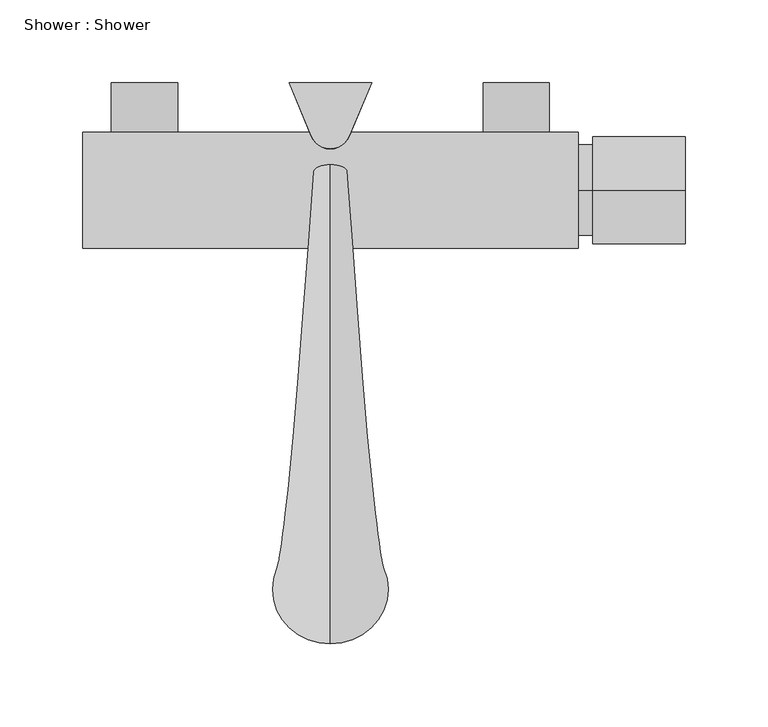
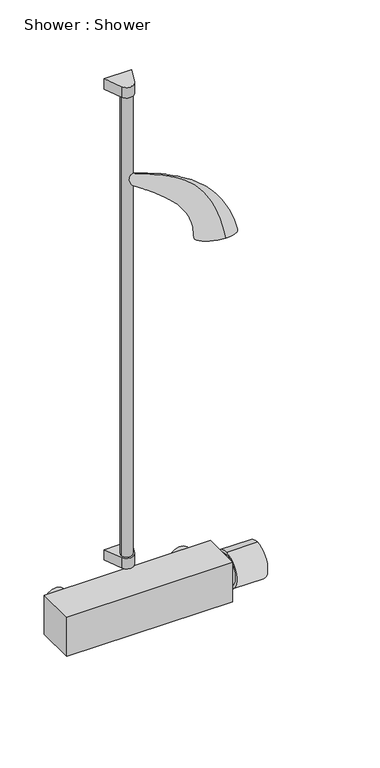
"""IFC4 building model written with IfcOpenShell, lengths in millimetres: flow terminal geometry, Shower : Shower."""

from ifc_helpers import new_model, si_unit, point, frame, frame_2d, origin, place, context, project, spatial, polyline, circle_curve, trimmed, segment, composite_curve, outline, extrude, source, transform, mapped, element, save
from ifc_brep_helpers import plane_surface, cylinder_surface, spline_curve, spline_surface, advanced_brep


def shower_shower_88c2a776(model_context):
    return source(origin(), model_context, "Body", "SolidModel", [
        extrude(outline(composite_curve([segment(trimmed(circle_curve(frame_2d((700.0, -112.5)), 20.0), [point((700.0, -132.5))], [point((700.0, -92.5))], False, "CARTESIAN"), True, "CONTINUOUS"), segment(trimmed(circle_curve(frame_2d((700.0, -112.5)), 20.0), [point((700.0, -92.5))], [point((700.0, -132.5))], False, "CARTESIAN"), True, "CONTINUOUS")], self_intersect=False)), frame((0.0, -30.0, 0.0), z_axis=(0.0, 1.0, 0.0), x_axis=(0.0, 0.0, 1.0)), (0.0, 0.0, 1.0), 30.0),
        extrude(outline(composite_curve([segment(trimmed(circle_curve(frame_2d((700.0, 112.5)), 20.0), [point((700.0, 92.5))], [point((700.0, 132.5))], False, "CARTESIAN"), True, "CONTINUOUS"), segment(trimmed(circle_curve(frame_2d((700.0, 112.5)), 20.0), [point((700.0, 132.5))], [point((700.0, 92.5))], False, "CARTESIAN"), True, "CONTINUOUS")], self_intersect=False)), frame((0.0, -30.0, 0.0), z_axis=(0.0, 1.0, 0.0), x_axis=(0.0, 0.0, 1.0)), (0.0, 0.0, 1.0), 30.0),
        advanced_brep(
        [(0.0, -273.9455818, 1531.8544159), (0.0, -339.7240653, 1555.795826), (0.0, -58.585236, 1485.4693827), (0.0, -49.5743612, 1503.3244698)],
        [
            (0, 1, spline_curve(3, [(0.0, -273.9455818, 1531.8544159), (4.581489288, -273.9455818, 1531.8544159), (9.161910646, -274.801822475, 1532.166062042), (17.625929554, -278.096430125, 1533.365201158), (21.509527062, -280.534797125, 1534.252694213), (27.987947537, -286.622438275, 1536.468414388), (30.582770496, -290.271712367, 1537.796641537), (34.088796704, -298.225598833, 1540.691619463), (35.0, -302.530211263, 1542.258370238), (35.0, -311.139435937, 1545.391871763), (34.088796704, -315.444048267, 1546.958622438), (30.582770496, -323.397934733, 1549.853600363), (27.987947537, -327.047208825, 1551.181827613), (21.509527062, -333.134849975, 1553.397547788), (17.625929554, -335.573216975, 1554.285040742), (9.161910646, -338.867824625, 1555.484179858), (4.581489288, -339.7240653, 1555.795826), (0.0, -339.7240653, 1555.795826)], [4, 2, 2, 2, 2, 2, 2, 2, 4], [0.0, 0.125, 0.25, 0.375, 0.5, 0.625, 0.75, 0.875, 1.0])),
            (1, 0, spline_curve(3, [(0.0, -339.7240653, 1555.795826), (-4.581489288, -339.7240653, 1555.795826), (-9.161910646, -338.867824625, 1555.484179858), (-17.625929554, -335.573216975, 1554.285040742), (-21.509527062, -333.134849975, 1553.397547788), (-27.987947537, -327.047208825, 1551.181827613), (-30.582770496, -323.397934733, 1549.853600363), (-34.088796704, -315.444048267, 1546.958622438), (-35.0, -311.139435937, 1545.391871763), (-35.0, -302.530211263, 1542.258370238), (-34.088796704, -298.225598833, 1540.691619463), (-30.582770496, -290.271712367, 1537.796641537), (-27.987947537, -286.622438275, 1536.468414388), (-21.509527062, -280.534797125, 1534.252694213), (-17.625929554, -278.096430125, 1533.365201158), (-9.161910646, -274.801822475, 1532.166062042), (-4.581489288, -273.9455818, 1531.8544159), (0.0, -273.9455818, 1531.8544159)], [4, 2, 2, 2, 2, 2, 2, 2, 4], [0.0, 0.125, 0.25, 0.375, 0.5, 0.625, 0.75, 0.875, 1.0])),
            (2, 3, spline_curve(3, [(0.0, -58.585236, 1485.4693827), (-1.308996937, -58.585236, 1485.4693827), (-2.617688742, -58.467941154, 1485.701802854), (-5.035979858, -58.016618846, 1486.596099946), (-6.145579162, -57.682591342, 1487.257976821), (-7.996556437, -56.848656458, 1488.910422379), (-8.737934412, -56.348749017, 1489.900991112), (-9.739656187, -55.259160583, 1492.060015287), (-10.0, -54.669479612, 1493.228470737), (-10.0, -53.490117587, 1495.565381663), (-9.739656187, -52.900436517, 1496.733837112), (-8.737934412, -51.810848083, 1498.892861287), (-7.996556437, -51.310940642, 1499.883430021), (-6.145579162, -50.477005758, 1501.535875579), (-5.035979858, -50.142978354, 1502.197752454), (-2.617688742, -49.691656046, 1503.092049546), (-1.308996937, -49.5743612, 1503.3244698), (0.0, -49.5743612, 1503.3244698)], [4, 2, 2, 2, 2, 2, 2, 2, 4], [0.0, 0.125, 0.25, 0.375, 0.5, 0.625, 0.75, 0.875, 1.0])),
            (3, 2, spline_curve(3, [(0.0, -49.5743612, 1503.3244698), (1.308996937, -49.5743612, 1503.3244698), (2.617688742, -49.691656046, 1503.092049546), (5.035979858, -50.142978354, 1502.197752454), (6.145579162, -50.477005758, 1501.535875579), (7.996556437, -51.310940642, 1499.883430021), (8.737934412, -51.810848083, 1498.892861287), (9.739656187, -52.900436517, 1496.733837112), (10.0, -53.490117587, 1495.565381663), (10.0, -54.669479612, 1493.228470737), (9.739656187, -55.259160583, 1492.060015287), (8.737934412, -56.348749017, 1489.900991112), (7.996556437, -56.848656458, 1488.910422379), (6.145579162, -57.682591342, 1487.257976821), (5.035979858, -58.016618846, 1486.596099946), (2.617688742, -58.467941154, 1485.701802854), (1.308996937, -58.585236, 1485.4693827), (0.0, -58.585236, 1485.4693827)], [4, 2, 2, 2, 2, 2, 2, 2, 4], [0.0, 0.125, 0.25, 0.375, 0.5, 0.625, 0.75, 0.875, 1.0])),
            (3, 1, spline_curve(3, [(0.0, -49.5743612, 1503.3244698), (0.0, -63.40074487, 1511.468991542), (0.0, -77.251793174, 1519.62621399), (0.0, -104.705512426, 1535.50800641), (0.0, -118.308183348, 1543.232576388), (0.0, -145.000729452, 1557.798523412), (0.0, -158.090604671, 1564.63990039), (0.0, -183.577807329, 1576.98807661), (0.0, -195.975134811, 1582.494875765), (0.0, -220.088456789, 1591.716124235), (0.0, -231.804451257, 1595.430573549), (0.0, -249.255113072, 1599.069210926), (0.0, -255.051445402, 1599.959917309), (0.0, -266.730418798, 1600.879782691), (0.0, -272.613059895, 1600.908941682), (0.0, -284.529336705, 1599.740766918), (0.0, -290.562972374, 1598.543433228), (0.0, -302.528009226, 1594.431873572), (0.0, -308.459410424, 1591.517647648), (0.0, -319.462788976, 1583.845597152), (0.0, -324.534766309, 1579.087772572), (0.0, -333.218295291, 1568.277379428), (0.0, -336.829846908, 1562.224810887), (0.0, -339.7240653, 1555.795826)], [4, 2, 2, 2, 2, 2, 2, 2, 2, 2, 2, 4], [0.0, 0.04462617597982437, 0.08925235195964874, 0.1338785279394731, 0.17850470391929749, 0.22313087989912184, 0.24544396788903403, 0.2677570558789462, 0.29007014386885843, 0.3123832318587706, 0.33469631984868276, 0.35700940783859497])),
            (0, 2, spline_curve(3, [(0.0, -273.9455818, 1531.8544159), (0.0, -273.836822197, 1533.676045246), (0.0, -273.739600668, 1534.907517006), (0.0, -273.682217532, 1536.852878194), (0.0, -273.722055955, 1537.566767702), (0.0, -273.426015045, 1539.146640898), (0.0, -273.090135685, 1540.012624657), (0.0, -271.373694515, 1541.890801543), (0.0, -269.993132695, 1542.902994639), (0.0, -266.022321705, 1544.704012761), (0.0, -263.432072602, 1545.492837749), (0.0, -257.194797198, 1546.602995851), (0.0, -253.547770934, 1546.92432895), (0.0, -241.344991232, 1547.0425204), (0.0, -231.527536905, 1545.993570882), (0.0, -209.750780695, 1541.821725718), (0.0, -197.791478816, 1538.698830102), (0.0, -172.448037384, 1530.887894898), (0.0, -159.063897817, 1526.199855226), (0.0, -131.396824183, 1515.773820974), (0.0, -117.113890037, 1510.035826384), (0.0, -88.090604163, 1498.025915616), (0.0, -73.350252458, 1491.753999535), (0.0, -58.585236, 1485.4693827)], [4, 2, 2, 2, 2, 2, 2, 2, 2, 2, 2, 4], [0.0, 0.022313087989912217, 0.04462617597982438, 0.06693926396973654, 0.08925235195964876, 0.11156543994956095, 0.13387852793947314, 0.17850470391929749, 0.22313087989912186, 0.2677570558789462, 0.3123832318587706, 0.35700940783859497])),
        ],
        [
            plane_surface(frame((0.0, -306.8348236, 1543.825121), z_axis=(0.0, -0.34202014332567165, -0.9396926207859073), x_axis=(1.0, 0.0, 0.0))),
            plane_surface(frame((0.0, -54.0797986, 1494.3969262), z_axis=(0.0, 0.8927543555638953, -0.45054373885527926), x_axis=(1.0, 0.0, 0.0))),
            spline_surface(3, 3, [[(0.0, -58.585236, 1485.4693827), (0.0, -73.350252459, 1491.753999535), (0.0, -88.090604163, 1498.025915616), (0.0, -117.113890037, 1510.035826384), (0.0, -131.396824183, 1515.773820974), (0.0, -159.063897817, 1526.199855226), (0.0, -172.448037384, 1530.887894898), (0.0, -197.791478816, 1538.698830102), (0.0, -209.750780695, 1541.821725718), (0.0, -231.527536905, 1545.993570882), (0.0, -241.344991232, 1547.042520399), (0.0, -253.547770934, 1546.92432895), (0.0, -257.194797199, 1546.602995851), (0.0, -263.432072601, 1545.492837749), (0.0, -266.022321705, 1544.704012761), (0.0, -269.993132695, 1542.902994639), (0.0, -271.373694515, 1541.890801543), (0.0, -273.090135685, 1540.012624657), (0.0, -273.426015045, 1539.146640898), (0.0, -273.722055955, 1537.566767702), (0.0, -273.682217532, 1536.852878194), (0.0, -273.739600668, 1534.907517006), (0.0, -273.836822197, 1533.676045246), (0.0, -273.9455818, 1531.8544159)], [(1.308996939, -58.585236, 1485.4693827), (1.445350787, -73.350252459, 1491.753999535), (1.581704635, -88.090604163, 1498.025915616), (1.85441233, -117.113890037, 1510.035826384), (1.990766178, -131.396824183, 1515.773820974), (2.263473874, -159.063897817, 1526.199855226), (2.399827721, -172.448037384, 1530.887894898), (2.672535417, -197.791478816, 1538.698830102), (2.808889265, -209.750780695, 1541.821725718), (3.081596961, -231.527536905, 1545.993570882), (3.217950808, -241.344991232, 1547.042520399), (3.42248158, -253.547770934, 1546.92432895), (3.490658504, -257.194797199, 1546.602995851), (3.627012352, -263.432072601, 1545.492837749), (3.695189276, -266.022321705, 1544.704012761), (3.831543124, -269.993132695, 1542.902994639), (3.899720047, -271.373694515, 1541.890801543), (4.036073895, -273.090135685, 1540.012624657), (4.104250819, -273.426015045, 1539.146640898), (4.240604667, -273.722055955, 1537.566767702), (4.308781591, -273.682217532, 1536.852878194), (4.445135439, -273.739600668, 1534.907517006), (4.513312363, -273.836822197, 1533.676045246), (4.581489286, -273.9455818, 1531.8544159)], [(2.617688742, -58.467941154, 1485.701802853), (2.890342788, -73.220742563, 1492.010623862), (3.163062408, -87.94952014, 1498.307098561), (3.708370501, -116.952364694, 1510.367387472), (3.981090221, -131.226470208, 1516.131244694), (4.526398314, -158.880815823, 1526.611183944), (4.799117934, -172.261171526, 1531.327290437), (5.344426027, -197.606433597, 1539.19719776), (5.617145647, -209.571652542, 1542.350894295), (6.16245374, -231.378444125, 1546.58901788), (6.43517346, -241.22058409, 1547.672589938), (6.844154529, -253.492002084, 1547.60300025), (6.98051429, -257.166897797, 1547.297493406), (7.253168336, -263.475006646, 1546.21386262), (7.389528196, -266.107996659, 1545.435679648), (7.662182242, -270.18246787, 1543.642808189), (7.798542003, -271.623513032, 1542.628501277), (8.071196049, -273.473298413, 1540.720751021), (8.207555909, -273.882441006, 1539.828258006), (8.480209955, -274.317069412, 1538.169278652), (8.616569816, -274.344055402, 1537.402348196), (8.889223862, -274.513948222, 1535.342196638), (9.025583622, -274.656813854, 1534.047649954), (9.161910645, -274.801822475, 1532.166062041)], [(5.035979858, -58.016618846, 1486.596099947), (5.560582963, -72.722401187, 1492.99808944), (6.085120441, -87.40663286, 1499.38895755), (7.13432665, -116.330883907, 1511.643219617), (7.658864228, -130.570864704, 1517.506570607), (8.708070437, -158.176484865, 1528.193831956), (9.232607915, -171.542008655, 1533.017717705), (10.281814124, -196.894572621, 1541.115057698), (10.806351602, -208.881300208, 1544.388616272), (11.855557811, -230.805881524, 1548.878545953), (12.380095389, -240.743168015, 1550.09577215), (13.167000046, -253.276780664, 1550.214950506), (13.429268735, -257.059543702, 1549.970052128), (13.953871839, -263.640210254, 1548.987893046), (14.216140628, -266.438336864, 1548.250691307), (14.740743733, -270.910300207, 1546.489698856), (15.003012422, -272.584572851, 1545.465526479), (15.527615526, -274.947797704, 1543.446916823), (15.789884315, -275.636347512, 1542.451529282), (16.31448742, -276.608848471, 1540.48702286), (16.576756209, -276.891299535, 1539.518348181), (17.101359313, -277.492799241, 1537.012966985), (17.363628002, -277.811889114, 1535.477585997), (17.625929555, -278.096430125, 1533.365201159)], [(6.145579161, -57.682591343, 1487.257976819), (6.785731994, -72.353588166, 1493.728893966), (7.425919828, -87.004859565, 1500.189698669), (8.706225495, -115.870898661, 1512.587425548), (9.346413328, -130.085737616, 1518.524427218), (10.626718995, -157.655111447, 1529.365197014), (11.266906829, -171.009859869, 1534.269010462), (12.547212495, -196.367608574, 1542.534288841), (13.187400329, -208.371186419, 1545.895560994), (14.467705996, -230.38130124, 1550.574235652), (15.107893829, -240.388886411, 1551.890058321), (16.068123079, -253.117964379, 1552.147642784), (16.388216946, -256.980092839, 1551.94781382), (17.02836978, -263.76247598, 1551.041198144), (17.348463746, -266.682318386, 1550.334302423), (17.98861658, -271.44948106, 1548.596509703), (18.308710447, -273.295995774, 1547.566317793), (18.94886328, -276.038952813, 1545.463490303), (19.268957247, -276.936138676, 1544.392610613), (19.90911008, -278.303303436, 1542.202828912), (20.229203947, -278.776054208, 1541.083106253), (20.86935678, -279.697954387, 1538.250829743), (21.189450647, -280.147027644, 1536.5358266), (21.509527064, -280.534797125, 1534.252694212)], [(7.996556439, -56.848656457, 1488.910422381), (8.829542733, -71.432773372, 1495.55349244), (9.662494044, -86.001734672, 1502.188713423), (11.328466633, -114.722551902, 1514.944855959), (12.161417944, -128.874336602, 1521.065698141), (13.827390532, -156.353677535, 1532.289549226), (14.660341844, -169.681020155, 1537.39251277), (16.326314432, -195.052261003, 1546.078031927), (17.159265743, -207.095581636, 1549.660780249), (18.825238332, -229.323343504, 1554.804731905), (19.658189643, -239.50673653, 1556.36751522), (20.907669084, -252.72028705, 1556.973897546), (21.32414469, -256.781728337, 1556.886058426), (22.157130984, -264.067732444, 1556.16693801), (22.57360669, -267.292707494, 1555.535765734), (23.406592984, -272.79433986, 1553.85687774), (23.82306859, -275.071802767, 1552.808456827), (24.656054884, -278.763472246, 1550.500787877), (25.072530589, -280.176935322, 1549.239783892), (25.905516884, -282.537958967, 1546.485461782), (26.321992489, -283.482747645, 1544.992964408), (27.154978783, -285.20215336, 1541.338010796), (27.571454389, -285.976846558, 1539.178003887), (27.987947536, -286.622438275, 1536.468414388)], [(8.737934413, -56.348749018, 1489.900991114), (9.648128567, -70.880805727, 1496.647218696), (10.558344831, -85.40043835, 1503.387107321), (12.37873314, -114.03413524, 1516.357960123), (13.288949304, -128.148292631, 1522.589028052), (15.109337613, -155.573387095, 1534.042620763), (16.019553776, -168.884603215, 1539.265204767), (17.839942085, -194.263603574, 1548.202061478), (18.750158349, -206.332142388, 1551.916082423), (20.570546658, -228.687914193, 1557.342510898), (21.480762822, -238.976516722, 1559.052854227), (22.846054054, -252.482601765, 1559.866375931), (23.301162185, -256.662821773, 1559.845987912), (24.21135634, -264.250716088, 1559.239926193), (24.666464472, -267.657851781, 1558.654110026), (25.576658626, -273.601281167, 1557.009942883), (26.031766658, -276.136522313, 1555.95251323), (26.941960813, -280.396501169, 1553.518803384), (27.397068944, -282.122210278, 1552.144817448), (28.307263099, -285.073890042, 1549.053347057), (28.762371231, -286.30348228, 1547.334790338), (29.672565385, -288.502401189, 1543.190603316), (30.127673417, -289.471628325, 1540.761772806), (30.582770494, -290.271712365, 1537.796641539)], [(9.739656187, -55.259160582, 1492.060015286), (10.754211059, -69.677703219, 1499.031171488), (11.768743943, -84.089792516, 1505.998945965), (13.797853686, -112.533747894, 1519.438091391), (14.81238647, -126.56552093, 1525.909358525), (16.841496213, -153.872981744, 1537.86347106), (17.856028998, -167.148390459, 1543.346257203), (19.885138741, -192.545019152, 1552.832184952), (20.899671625, -204.665484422, 1556.835578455), (22.928781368, -227.305625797, 1562.869920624), (23.943314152, -237.823932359, 1564.902933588), (25.465146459, -251.963011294, 1566.172181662), (25.972412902, -256.403646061, 1566.298115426), (26.986967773, -264.649552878, 1565.93702807), (27.494234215, -268.455363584, 1565.45014935), (28.508789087, -275.358423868, 1563.882944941), (29.016055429, -278.456725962, 1562.801697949), (30.0306103, -283.956257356, 1560.100349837), (30.537876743, -286.356515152, 1558.477954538), (31.552431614, -290.606734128, 1554.648876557), (32.059698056, -292.453073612, 1552.4432662), (33.074252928, -295.693983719, 1547.224199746), (33.58151927, -297.08865381, 1544.213943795), (34.088796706, -298.225598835, 1540.691619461)], [(10.0, -54.669479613, 1493.228470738), (11.041666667, -69.026613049, 1500.321309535), (12.083333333, -83.380515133, 1507.412547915), (14.166666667, -111.721705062, 1521.104961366), (15.208333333, -125.709093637, 1527.706248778), (17.291666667, -152.952566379, 1539.931360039), (18.333333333, -166.20895255, 1545.555247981), (20.416666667, -191.61473421, 1555.337648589), (21.458333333, -203.764946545, 1559.495888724), (23.541666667, -226.556085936, 1565.863435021), (24.583333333, -237.198495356, 1568.070506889), (26.145833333, -251.682642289, 1569.584092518), (26.666666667, -256.263386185, 1569.789590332), (27.708333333, -264.865396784, 1569.561864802), (28.229166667, -268.886080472, 1569.128487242), (29.270833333, -276.310275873, 1567.602238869), (29.791666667, -279.712648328, 1566.510365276), (30.833333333, -285.882546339, 1563.660341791), (31.354166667, -288.65112345, 1561.904675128), (32.395833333, -293.598068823, 1557.677903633), (32.916666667, -295.780357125, 1555.205638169), (33.958333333, -299.58689161, 1549.409481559), (34.479166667, -301.211030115, 1546.08212664), (35.0, -302.530211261, 1542.258370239)], [(10.0, -53.490117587, 1495.565381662), (11.041666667, -67.724384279, 1502.901681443), (12.083333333, -81.961882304, 1510.239581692), (14.166666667, -110.097697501, 1524.438871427), (15.208333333, -123.995913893, 1531.300148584), (17.291666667, -151.11206089, 1544.067018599), (18.333333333, -164.329689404, 1549.972547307), (20.416666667, -189.754551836, 1560.349258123), (21.458333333, -201.960968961, 1564.820712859), (23.541666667, -225.059907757, 1571.846260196), (24.583333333, -235.950947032, 1574.40258716), (26.145833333, -251.120241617, 1576.409447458), (26.666666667, -255.982856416, 1576.773322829), (27.708333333, -265.297094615, 1576.810755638), (28.229166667, -269.749301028, 1576.4844672), (29.270833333, -278.212193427, 1575.041522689), (29.791666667, -282.224018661, 1573.923869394), (30.833333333, -289.735598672, 1570.784156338), (31.354166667, -293.23430202, 1568.759613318), (32.395833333, -299.586776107, 1563.734461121), (32.916666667, -302.436626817, 1560.735012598), (33.958333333, -307.371004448, 1553.775414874), (34.479166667, -309.455639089, 1549.818729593), (35.0, -311.139435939, 1545.391871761)], [(9.739656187, -52.900436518, 1496.733837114), (10.754211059, -67.073294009, 1504.19181949), (11.768743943, -81.252604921, 1511.653183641), (13.797853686, -109.285654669, 1526.105741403), (14.81238647, -123.139486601, 1533.097038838), (16.841496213, -150.191645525, 1546.134907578), (17.856028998, -163.390251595, 1552.181538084), (19.885138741, -188.824266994, 1562.854721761), (20.899671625, -201.060430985, 1567.481023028), (22.928781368, -224.310367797, 1574.839774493), (23.943314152, -235.325510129, 1577.570160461), (25.465146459, -250.839872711, 1579.821358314), (25.972412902, -255.84259654, 1580.264797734), (26.986967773, -265.51293852, 1580.43559237), (27.494234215, -270.180018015, 1580.162805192), (28.508789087, -279.164045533, 1578.760816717), (29.016055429, -283.479941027, 1577.632536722), (30.0306103, -291.661887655, 1574.344148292), (30.537876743, -295.528910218, 1572.186334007), (31.552431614, -302.578110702, 1566.763488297), (32.059698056, -305.76391023, 1563.497384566), (33.074252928, -311.263912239, 1555.960696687), (33.58151927, -313.578015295, 1551.686912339), (34.088796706, -315.444048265, 1546.958622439)], [(8.737934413, -51.810848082, 1498.892861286), (9.648128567, -65.870191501, 1506.575772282), (10.558344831, -79.941959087, 1514.265022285), (12.37873314, -107.785267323, 1529.185872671), (13.288949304, -121.5567149, 1536.41736931), (15.109337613, -148.491240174, 1549.955757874), (16.019553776, -161.654038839, 1556.26259052), (17.839942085, -187.105682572, 1567.484845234), (18.750158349, -199.393773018, 1572.40051906), (20.570546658, -222.9280794, 1580.367184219), (21.480762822, -234.172925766, 1583.420239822), (22.846054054, -250.320282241, 1586.127164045), (23.301162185, -255.583420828, 1586.716925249), (24.21135634, -265.911775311, 1587.132694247), (24.666464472, -270.977529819, 1586.958844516), (25.576658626, -280.921188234, 1585.633818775), (26.031766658, -285.800144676, 1584.481721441), (26.941960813, -295.221643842, 1580.925694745), (27.397068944, -299.763215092, 1578.519471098), (28.307263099, -308.110954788, 1572.359017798), (28.762371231, -311.913501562, 1568.605860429), (29.672565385, -318.455494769, 1559.994293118), (30.127673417, -321.19504078, 1555.139083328), (30.582770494, -323.397934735, 1549.853600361)], [(7.996556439, -51.310940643, 1499.883430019), (8.829542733, -65.318223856, 1507.669498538), (9.662494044, -79.340662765, 1515.463416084), (11.328466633, -107.096850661, 1530.598976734), (12.161417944, -120.830670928, 1537.940699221), (13.827390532, -147.710949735, 1551.708829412), (14.660341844, -160.857621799, 1558.135282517), (16.326314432, -186.317025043, 1569.608874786), (17.159265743, -198.63033377, 1574.655821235), (18.825238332, -222.292650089, 1582.904963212), (19.658189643, -233.642705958, 1586.105578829), (20.907669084, -250.082596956, 1589.01964243), (21.32414469, -255.464514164, 1589.676854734), (22.157130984, -266.094758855, 1590.20568243), (22.57360669, -271.342674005, 1590.077188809), (23.406592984, -281.72812944, 1588.786883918), (23.82306859, -286.864864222, 1587.625777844), (24.656054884, -296.854672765, 1583.943710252), (25.072530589, -301.708490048, 1581.424504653), (25.905516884, -310.646885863, 1574.926903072), (26.321992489, -314.734236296, 1570.947686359), (27.154978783, -321.755742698, 1561.846885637), (27.571454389, -324.689822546, 1556.722852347), (27.987947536, -327.047208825, 1551.181827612)], [(6.145579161, -50.477005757, 1501.535875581), (6.785731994, -64.397409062, 1509.494097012), (7.425919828, -78.337537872, 1517.462430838), (8.706225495, -105.948503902, 1532.956407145), (9.346413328, -119.619269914, 1540.481970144), (10.626718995, -146.409515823, 1554.633181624), (11.266906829, -159.528782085, 1561.258784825), (12.547212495, -185.001677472, 1573.152617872), (13.187400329, -197.354728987, 1578.421040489), (14.467705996, -221.234692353, 1587.135459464), (15.107893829, -232.760556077, 1590.583035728), (16.068123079, -249.684919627, 1593.845897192), (16.388216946, -255.266149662, 1594.61509934), (17.02836978, -266.400015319, 1595.331422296), (17.348463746, -271.953063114, 1595.278652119), (17.98861658, -283.07298824, 1594.047251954), (18.308710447, -288.640671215, 1592.867916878), (18.94886328, -299.579192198, 1588.981007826), (19.268957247, -304.949286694, 1586.271677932), (19.90911008, -314.881541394, 1579.209535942), (20.229203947, -319.440929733, 1574.857544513), (20.86935678, -327.259941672, 1564.934066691), (21.189450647, -330.51964146, 1559.365029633), (21.509527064, -333.134849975, 1553.397547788)], [(5.035979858, -50.142978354, 1502.197752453), (5.560582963, -64.02859614, 1510.224901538), (6.085120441, -77.935764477, 1518.263172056), (7.13432665, -105.488518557, 1533.900613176), (7.658864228, -119.134142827, 1541.499826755), (8.708070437, -145.888142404, 1555.804546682), (9.232607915, -158.996633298, 1562.510077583), (10.281814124, -184.474713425, 1574.571849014), (10.806351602, -196.844615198, 1579.927985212), (11.855557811, -220.810112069, 1588.831149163), (12.380095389, -232.406274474, 1592.377321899), (13.167000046, -249.526103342, 1595.77858947), (13.429268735, -255.186698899, 1596.592861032), (13.953871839, -266.522281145, 1597.384727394), (14.216140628, -272.197044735, 1597.362263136), (14.740743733, -283.612169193, 1596.154062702), (15.003012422, -289.352094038, 1594.968708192), (15.527615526, -300.670347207, 1590.997581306), (15.789884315, -306.249077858, 1588.212759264), (16.31448742, -316.575996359, 1580.925341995), (16.576756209, -321.325684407, 1576.422302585), (17.101359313, -329.465096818, 1566.171929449), (17.363628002, -332.85477999, 1560.423270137), (17.625929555, -335.573216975, 1554.285040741)], [(2.617688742, -49.691656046, 1503.092049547), (2.890342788, -63.530254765, 1511.212367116), (3.163062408, -77.392877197, 1519.345031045), (3.708370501, -104.867037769, 1535.176445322), (3.981090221, -118.478537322, 1542.875152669), (4.526398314, -145.183811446, 1557.387194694), (4.799117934, -158.277470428, 1564.20050485), (5.344426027, -183.762852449, 1576.489708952), (5.617145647, -196.154262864, 1581.965707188), (6.16245374, -220.237549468, 1591.120677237), (6.43517346, -231.928858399, 1594.800504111), (6.844154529, -249.310881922, 1598.390539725), (6.98051429, -255.079344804, 1599.265419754), (7.253168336, -266.687484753, 1600.15875782), (7.389528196, -272.527384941, 1600.177274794), (7.662182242, -284.340001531, 1599.000953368), (7.798542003, -290.313153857, 1597.805733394), (8.071196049, -302.144846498, 1593.723747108), (8.207555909, -308.002984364, 1590.836030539), (8.480209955, -318.867775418, 1583.243086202), (8.616569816, -323.872928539, 1578.538302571), (8.889223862, -332.443947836, 1567.842699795), (9.025583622, -336.009855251, 1561.85320618), (9.161910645, -338.867824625, 1555.484179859)], [(1.308996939, -49.5743612, 1503.3244698), (1.445350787, -63.400744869, 1511.468991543), (1.581704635, -77.251793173, 1519.626213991), (1.85441233, -104.705512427, 1535.508006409), (1.990766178, -118.308183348, 1543.232576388), (2.263473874, -145.000729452, 1557.798523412), (2.399827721, -158.09060467, 1564.63990039), (2.672535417, -183.57780733, 1576.98807661), (2.808889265, -195.975134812, 1582.494875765), (3.081596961, -220.088456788, 1591.716124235), (3.217950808, -231.804451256, 1595.43057355), (3.42248158, -249.255113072, 1599.069210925), (3.490658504, -255.051445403, 1599.959917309), (3.627012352, -266.730418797, 1600.879782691), (3.695189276, -272.613059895, 1600.908941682), (3.831543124, -284.529336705, 1599.740766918), (3.899720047, -290.562972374, 1598.543433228), (4.036073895, -302.528009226, 1594.431873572), (4.104250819, -308.459410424, 1591.517647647), (4.240604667, -319.462788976, 1583.845597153), (4.308781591, -324.534766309, 1579.087772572), (4.445135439, -333.218295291, 1568.277379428), (4.513312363, -336.829846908, 1562.224810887), (4.581489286, -339.7240653, 1555.795826)], [(0.0, -49.5743612, 1503.3244698), (0.0, -63.400744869, 1511.468991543), (0.0, -77.251793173, 1519.626213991), (0.0, -104.705512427, 1535.508006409), (0.0, -118.308183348, 1543.232576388), (0.0, -145.000729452, 1557.798523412), (0.0, -158.09060467, 1564.63990039), (0.0, -183.57780733, 1576.98807661), (0.0, -195.975134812, 1582.494875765), (0.0, -220.088456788, 1591.716124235), (0.0, -231.804451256, 1595.43057355), (0.0, -249.255113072, 1599.069210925), (0.0, -255.051445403, 1599.959917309), (0.0, -266.730418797, 1600.879782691), (0.0, -272.613059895, 1600.908941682), (0.0, -284.529336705, 1599.740766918), (0.0, -290.562972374, 1598.543433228), (0.0, -302.528009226, 1594.431873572), (0.0, -308.459410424, 1591.517647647), (0.0, -319.462788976, 1583.845597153), (0.0, -324.534766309, 1579.087772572), (0.0, -333.218295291, 1568.277379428), (0.0, -336.829846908, 1562.224810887), (0.0, -339.7240653, 1555.795826)]], [4, 2, 2, 2, 2, 2, 2, 2, 4], [4, 2, 2, 2, 2, 2, 2, 2, 2, 2, 2, 4], [0.0, 0.125, 0.25, 0.375, 0.5, 0.625, 0.75, 0.875, 1.0], [0.0, 0.04462617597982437, 0.08925235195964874, 0.1338785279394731, 0.17850470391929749, 0.22313087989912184, 0.24544396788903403, 0.2677570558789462, 0.29007014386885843, 0.3123832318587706, 0.33469631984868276, 0.35700940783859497]),
            spline_surface(3, 3, [[(0.0, -49.5743612, 1503.3244698), (0.0, -63.400744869, 1511.468991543), (0.0, -77.251793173, 1519.626213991), (0.0, -104.705512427, 1535.508006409), (0.0, -118.308183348, 1543.232576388), (0.0, -145.000729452, 1557.798523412), (0.0, -158.09060467, 1564.63990039), (0.0, -183.57780733, 1576.98807661), (0.0, -195.975134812, 1582.494875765), (0.0, -220.088456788, 1591.716124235), (0.0, -231.804451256, 1595.43057355), (0.0, -249.255113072, 1599.069210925), (0.0, -255.051445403, 1599.959917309), (0.0, -266.730418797, 1600.879782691), (0.0, -272.613059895, 1600.908941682), (0.0, -284.529336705, 1599.740766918), (0.0, -290.562972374, 1598.543433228), (0.0, -302.528009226, 1594.431873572), (0.0, -308.459410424, 1591.517647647), (0.0, -319.462788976, 1583.845597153), (0.0, -324.534766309, 1579.087772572), (0.0, -333.218295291, 1568.277379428), (0.0, -336.829846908, 1562.224810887), (0.0, -339.7240653, 1555.795826)], [(-1.308996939, -49.5743612, 1503.3244698), (-1.445350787, -63.400744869, 1511.468991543), (-1.581704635, -77.251793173, 1519.626213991), (-1.85441233, -104.705512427, 1535.508006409), (-1.990766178, -118.308183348, 1543.232576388), (-2.263473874, -145.000729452, 1557.798523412), (-2.399827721, -158.09060467, 1564.63990039), (-2.672535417, -183.57780733, 1576.98807661), (-2.808889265, -195.975134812, 1582.494875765), (-3.081596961, -220.088456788, 1591.716124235), (-3.217950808, -231.804451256, 1595.43057355), (-3.42248158, -249.255113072, 1599.069210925), (-3.490658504, -255.051445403, 1599.959917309), (-3.627012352, -266.730418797, 1600.879782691), (-3.695189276, -272.613059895, 1600.908941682), (-3.831543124, -284.529336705, 1599.740766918), (-3.899720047, -290.562972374, 1598.543433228), (-4.036073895, -302.528009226, 1594.431873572), (-4.104250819, -308.459410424, 1591.517647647), (-4.240604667, -319.462788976, 1583.845597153), (-4.308781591, -324.534766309, 1579.087772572), (-4.445135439, -333.218295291, 1568.277379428), (-4.513312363, -336.829846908, 1562.224810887), (-4.581489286, -339.7240653, 1555.795826)], [(-2.617688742, -49.691656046, 1503.092049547), (-2.890342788, -63.530254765, 1511.212367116), (-3.163062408, -77.392877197, 1519.345031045), (-3.708370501, -104.867037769, 1535.176445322), (-3.981090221, -118.478537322, 1542.875152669), (-4.526398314, -145.183811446, 1557.387194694), (-4.799117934, -158.277470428, 1564.20050485), (-5.344426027, -183.762852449, 1576.489708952), (-5.617145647, -196.154262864, 1581.965707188), (-6.16245374, -220.237549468, 1591.120677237), (-6.43517346, -231.928858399, 1594.800504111), (-6.844154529, -249.310881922, 1598.390539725), (-6.98051429, -255.079344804, 1599.265419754), (-7.253168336, -266.687484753, 1600.15875782), (-7.389528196, -272.527384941, 1600.177274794), (-7.662182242, -284.340001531, 1599.000953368), (-7.798542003, -290.313153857, 1597.805733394), (-8.071196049, -302.144846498, 1593.723747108), (-8.207555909, -308.002984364, 1590.836030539), (-8.480209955, -318.867775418, 1583.243086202), (-8.616569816, -323.872928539, 1578.538302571), (-8.889223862, -332.443947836, 1567.842699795), (-9.025583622, -336.009855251, 1561.85320618), (-9.161910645, -338.867824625, 1555.484179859)], [(-5.035979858, -50.142978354, 1502.197752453), (-5.560582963, -64.02859614, 1510.224901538), (-6.085120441, -77.935764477, 1518.263172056), (-7.13432665, -105.488518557, 1533.900613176), (-7.658864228, -119.134142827, 1541.499826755), (-8.708070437, -145.888142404, 1555.804546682), (-9.232607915, -158.996633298, 1562.510077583), (-10.281814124, -184.474713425, 1574.571849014), (-10.806351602, -196.844615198, 1579.927985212), (-11.855557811, -220.810112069, 1588.831149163), (-12.380095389, -232.406274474, 1592.377321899), (-13.167000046, -249.526103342, 1595.77858947), (-13.429268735, -255.186698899, 1596.592861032), (-13.953871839, -266.522281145, 1597.384727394), (-14.216140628, -272.197044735, 1597.362263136), (-14.740743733, -283.612169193, 1596.154062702), (-15.003012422, -289.352094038, 1594.968708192), (-15.527615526, -300.670347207, 1590.997581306), (-15.789884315, -306.249077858, 1588.212759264), (-16.31448742, -316.575996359, 1580.925341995), (-16.576756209, -321.325684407, 1576.422302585), (-17.101359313, -329.465096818, 1566.171929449), (-17.363628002, -332.85477999, 1560.423270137), (-17.625929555, -335.573216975, 1554.285040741)], [(-6.145579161, -50.477005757, 1501.535875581), (-6.785731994, -64.397409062, 1509.494097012), (-7.425919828, -78.337537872, 1517.462430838), (-8.706225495, -105.948503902, 1532.956407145), (-9.346413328, -119.619269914, 1540.481970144), (-10.626718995, -146.409515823, 1554.633181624), (-11.266906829, -159.528782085, 1561.258784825), (-12.547212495, -185.001677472, 1573.152617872), (-13.187400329, -197.354728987, 1578.421040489), (-14.467705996, -221.234692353, 1587.135459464), (-15.107893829, -232.760556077, 1590.583035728), (-16.068123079, -249.684919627, 1593.845897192), (-16.388216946, -255.266149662, 1594.61509934), (-17.02836978, -266.400015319, 1595.331422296), (-17.348463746, -271.953063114, 1595.278652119), (-17.98861658, -283.07298824, 1594.047251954), (-18.308710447, -288.640671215, 1592.867916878), (-18.94886328, -299.579192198, 1588.981007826), (-19.268957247, -304.949286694, 1586.271677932), (-19.90911008, -314.881541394, 1579.209535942), (-20.229203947, -319.440929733, 1574.857544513), (-20.86935678, -327.259941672, 1564.934066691), (-21.189450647, -330.51964146, 1559.365029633), (-21.509527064, -333.134849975, 1553.397547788)], [(-7.996556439, -51.310940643, 1499.883430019), (-8.829542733, -65.318223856, 1507.669498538), (-9.662494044, -79.340662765, 1515.463416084), (-11.328466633, -107.096850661, 1530.598976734), (-12.161417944, -120.830670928, 1537.940699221), (-13.827390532, -147.710949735, 1551.708829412), (-14.660341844, -160.857621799, 1558.135282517), (-16.326314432, -186.317025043, 1569.608874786), (-17.159265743, -198.63033377, 1574.655821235), (-18.825238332, -222.292650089, 1582.904963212), (-19.658189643, -233.642705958, 1586.105578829), (-20.907669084, -250.082596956, 1589.01964243), (-21.32414469, -255.464514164, 1589.676854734), (-22.157130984, -266.094758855, 1590.20568243), (-22.57360669, -271.342674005, 1590.077188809), (-23.406592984, -281.72812944, 1588.786883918), (-23.82306859, -286.864864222, 1587.625777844), (-24.656054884, -296.854672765, 1583.943710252), (-25.072530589, -301.708490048, 1581.424504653), (-25.905516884, -310.646885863, 1574.926903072), (-26.321992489, -314.734236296, 1570.947686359), (-27.154978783, -321.755742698, 1561.846885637), (-27.571454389, -324.689822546, 1556.722852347), (-27.987947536, -327.047208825, 1551.181827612)], [(-8.737934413, -51.810848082, 1498.892861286), (-9.648128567, -65.870191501, 1506.575772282), (-10.558344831, -79.941959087, 1514.265022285), (-12.37873314, -107.785267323, 1529.185872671), (-13.288949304, -121.5567149, 1536.41736931), (-15.109337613, -148.491240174, 1549.955757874), (-16.019553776, -161.654038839, 1556.26259052), (-17.839942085, -187.105682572, 1567.484845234), (-18.750158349, -199.393773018, 1572.40051906), (-20.570546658, -222.9280794, 1580.367184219), (-21.480762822, -234.172925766, 1583.420239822), (-22.846054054, -250.320282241, 1586.127164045), (-23.301162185, -255.583420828, 1586.716925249), (-24.21135634, -265.911775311, 1587.132694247), (-24.666464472, -270.977529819, 1586.958844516), (-25.576658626, -280.921188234, 1585.633818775), (-26.031766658, -285.800144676, 1584.481721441), (-26.941960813, -295.221643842, 1580.925694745), (-27.397068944, -299.763215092, 1578.519471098), (-28.307263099, -308.110954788, 1572.359017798), (-28.762371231, -311.913501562, 1568.605860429), (-29.672565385, -318.455494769, 1559.994293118), (-30.127673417, -321.19504078, 1555.139083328), (-30.582770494, -323.397934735, 1549.853600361)], [(-9.739656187, -52.900436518, 1496.733837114), (-10.754211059, -67.073294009, 1504.19181949), (-11.768743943, -81.252604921, 1511.653183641), (-13.797853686, -109.285654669, 1526.105741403), (-14.81238647, -123.139486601, 1533.097038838), (-16.841496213, -150.191645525, 1546.134907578), (-17.856028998, -163.390251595, 1552.181538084), (-19.885138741, -188.824266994, 1562.854721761), (-20.899671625, -201.060430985, 1567.481023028), (-22.928781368, -224.310367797, 1574.839774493), (-23.943314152, -235.325510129, 1577.570160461), (-25.465146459, -250.839872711, 1579.821358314), (-25.972412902, -255.84259654, 1580.264797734), (-26.986967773, -265.51293852, 1580.43559237), (-27.494234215, -270.180018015, 1580.162805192), (-28.508789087, -279.164045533, 1578.760816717), (-29.016055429, -283.479941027, 1577.632536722), (-30.0306103, -291.661887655, 1574.344148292), (-30.537876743, -295.528910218, 1572.186334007), (-31.552431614, -302.578110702, 1566.763488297), (-32.059698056, -305.76391023, 1563.497384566), (-33.074252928, -311.263912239, 1555.960696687), (-33.58151927, -313.578015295, 1551.686912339), (-34.088796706, -315.444048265, 1546.958622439)], [(-10.0, -53.490117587, 1495.565381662), (-11.041666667, -67.724384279, 1502.901681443), (-12.083333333, -81.961882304, 1510.239581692), (-14.166666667, -110.097697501, 1524.438871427), (-15.208333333, -123.995913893, 1531.300148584), (-17.291666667, -151.11206089, 1544.067018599), (-18.333333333, -164.329689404, 1549.972547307), (-20.416666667, -189.754551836, 1560.349258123), (-21.458333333, -201.960968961, 1564.820712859), (-23.541666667, -225.059907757, 1571.846260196), (-24.583333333, -235.950947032, 1574.40258716), (-26.145833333, -251.120241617, 1576.409447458), (-26.666666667, -255.982856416, 1576.773322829), (-27.708333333, -265.297094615, 1576.810755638), (-28.229166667, -269.749301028, 1576.4844672), (-29.270833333, -278.212193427, 1575.041522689), (-29.791666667, -282.224018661, 1573.923869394), (-30.833333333, -289.735598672, 1570.784156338), (-31.354166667, -293.23430202, 1568.759613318), (-32.395833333, -299.586776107, 1563.734461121), (-32.916666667, -302.436626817, 1560.735012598), (-33.958333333, -307.371004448, 1553.775414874), (-34.479166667, -309.455639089, 1549.818729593), (-35.0, -311.139435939, 1545.391871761)], [(-10.0, -54.669479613, 1493.228470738), (-11.041666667, -69.026613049, 1500.321309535), (-12.083333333, -83.380515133, 1507.412547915), (-14.166666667, -111.721705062, 1521.104961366), (-15.208333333, -125.709093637, 1527.706248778), (-17.291666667, -152.952566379, 1539.931360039), (-18.333333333, -166.20895255, 1545.555247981), (-20.416666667, -191.61473421, 1555.337648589), (-21.458333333, -203.764946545, 1559.495888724), (-23.541666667, -226.556085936, 1565.863435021), (-24.583333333, -237.198495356, 1568.070506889), (-26.145833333, -251.682642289, 1569.584092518), (-26.666666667, -256.263386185, 1569.789590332), (-27.708333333, -264.865396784, 1569.561864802), (-28.229166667, -268.886080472, 1569.128487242), (-29.270833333, -276.310275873, 1567.602238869), (-29.791666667, -279.712648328, 1566.510365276), (-30.833333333, -285.882546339, 1563.660341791), (-31.354166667, -288.65112345, 1561.904675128), (-32.395833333, -293.598068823, 1557.677903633), (-32.916666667, -295.780357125, 1555.205638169), (-33.958333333, -299.58689161, 1549.409481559), (-34.479166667, -301.211030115, 1546.08212664), (-35.0, -302.530211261, 1542.258370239)], [(-9.739656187, -55.259160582, 1492.060015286), (-10.754211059, -69.677703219, 1499.031171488), (-11.768743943, -84.089792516, 1505.998945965), (-13.797853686, -112.533747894, 1519.438091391), (-14.81238647, -126.56552093, 1525.909358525), (-16.841496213, -153.872981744, 1537.86347106), (-17.856028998, -167.148390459, 1543.346257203), (-19.885138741, -192.545019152, 1552.832184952), (-20.899671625, -204.665484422, 1556.835578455), (-22.928781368, -227.305625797, 1562.869920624), (-23.943314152, -237.823932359, 1564.902933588), (-25.465146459, -251.963011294, 1566.172181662), (-25.972412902, -256.403646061, 1566.298115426), (-26.986967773, -264.649552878, 1565.93702807), (-27.494234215, -268.455363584, 1565.45014935), (-28.508789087, -275.358423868, 1563.882944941), (-29.016055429, -278.456725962, 1562.801697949), (-30.0306103, -283.956257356, 1560.100349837), (-30.537876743, -286.356515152, 1558.477954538), (-31.552431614, -290.606734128, 1554.648876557), (-32.059698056, -292.453073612, 1552.4432662), (-33.074252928, -295.693983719, 1547.224199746), (-33.58151927, -297.08865381, 1544.213943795), (-34.088796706, -298.225598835, 1540.691619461)], [(-8.737934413, -56.348749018, 1489.900991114), (-9.648128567, -70.880805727, 1496.647218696), (-10.558344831, -85.40043835, 1503.387107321), (-12.37873314, -114.03413524, 1516.357960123), (-13.288949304, -128.148292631, 1522.589028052), (-15.109337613, -155.573387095, 1534.042620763), (-16.019553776, -168.884603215, 1539.265204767), (-17.839942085, -194.263603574, 1548.202061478), (-18.750158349, -206.332142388, 1551.916082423), (-20.570546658, -228.687914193, 1557.342510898), (-21.480762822, -238.976516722, 1559.052854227), (-22.846054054, -252.482601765, 1559.866375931), (-23.301162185, -256.662821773, 1559.845987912), (-24.21135634, -264.250716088, 1559.239926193), (-24.666464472, -267.657851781, 1558.654110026), (-25.576658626, -273.601281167, 1557.009942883), (-26.031766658, -276.136522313, 1555.95251323), (-26.941960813, -280.396501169, 1553.518803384), (-27.397068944, -282.122210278, 1552.144817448), (-28.307263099, -285.073890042, 1549.053347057), (-28.762371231, -286.30348228, 1547.334790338), (-29.672565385, -288.502401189, 1543.190603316), (-30.127673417, -289.471628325, 1540.761772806), (-30.582770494, -290.271712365, 1537.796641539)], [(-7.996556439, -56.848656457, 1488.910422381), (-8.829542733, -71.432773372, 1495.55349244), (-9.662494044, -86.001734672, 1502.188713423), (-11.328466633, -114.722551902, 1514.944855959), (-12.161417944, -128.874336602, 1521.065698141), (-13.827390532, -156.353677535, 1532.289549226), (-14.660341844, -169.681020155, 1537.39251277), (-16.326314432, -195.052261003, 1546.078031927), (-17.159265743, -207.095581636, 1549.660780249), (-18.825238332, -229.323343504, 1554.804731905), (-19.658189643, -239.50673653, 1556.36751522), (-20.907669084, -252.72028705, 1556.973897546), (-21.32414469, -256.781728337, 1556.886058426), (-22.157130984, -264.067732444, 1556.16693801), (-22.57360669, -267.292707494, 1555.535765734), (-23.406592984, -272.79433986, 1553.85687774), (-23.82306859, -275.071802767, 1552.808456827), (-24.656054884, -278.763472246, 1550.500787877), (-25.072530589, -280.176935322, 1549.239783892), (-25.905516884, -282.537958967, 1546.485461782), (-26.321992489, -283.482747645, 1544.992964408), (-27.154978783, -285.20215336, 1541.338010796), (-27.571454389, -285.976846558, 1539.178003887), (-27.987947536, -286.622438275, 1536.468414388)], [(-6.145579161, -57.682591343, 1487.257976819), (-6.785731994, -72.353588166, 1493.728893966), (-7.425919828, -87.004859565, 1500.189698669), (-8.706225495, -115.870898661, 1512.587425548), (-9.346413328, -130.085737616, 1518.524427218), (-10.626718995, -157.655111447, 1529.365197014), (-11.266906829, -171.009859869, 1534.269010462), (-12.547212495, -196.367608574, 1542.534288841), (-13.187400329, -208.371186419, 1545.895560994), (-14.467705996, -230.38130124, 1550.574235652), (-15.107893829, -240.388886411, 1551.890058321), (-16.068123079, -253.117964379, 1552.147642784), (-16.388216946, -256.980092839, 1551.94781382), (-17.02836978, -263.76247598, 1551.041198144), (-17.348463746, -266.682318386, 1550.334302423), (-17.98861658, -271.44948106, 1548.596509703), (-18.308710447, -273.295995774, 1547.566317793), (-18.94886328, -276.038952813, 1545.463490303), (-19.268957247, -276.936138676, 1544.392610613), (-19.90911008, -278.303303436, 1542.202828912), (-20.229203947, -278.776054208, 1541.083106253), (-20.86935678, -279.697954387, 1538.250829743), (-21.189450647, -280.147027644, 1536.5358266), (-21.509527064, -280.534797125, 1534.252694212)], [(-5.035979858, -58.016618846, 1486.596099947), (-5.560582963, -72.722401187, 1492.99808944), (-6.085120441, -87.40663286, 1499.38895755), (-7.13432665, -116.330883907, 1511.643219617), (-7.658864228, -130.570864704, 1517.506570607), (-8.708070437, -158.176484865, 1528.193831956), (-9.232607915, -171.542008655, 1533.017717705), (-10.281814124, -196.894572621, 1541.115057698), (-10.806351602, -208.881300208, 1544.388616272), (-11.855557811, -230.805881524, 1548.878545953), (-12.380095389, -240.743168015, 1550.09577215), (-13.167000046, -253.276780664, 1550.214950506), (-13.429268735, -257.059543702, 1549.970052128), (-13.953871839, -263.640210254, 1548.987893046), (-14.216140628, -266.438336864, 1548.250691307), (-14.740743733, -270.910300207, 1546.489698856), (-15.003012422, -272.584572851, 1545.465526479), (-15.527615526, -274.947797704, 1543.446916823), (-15.789884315, -275.636347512, 1542.451529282), (-16.31448742, -276.608848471, 1540.48702286), (-16.576756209, -276.891299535, 1539.518348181), (-17.101359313, -277.492799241, 1537.012966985), (-17.363628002, -277.811889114, 1535.477585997), (-17.625929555, -278.096430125, 1533.365201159)], [(-2.617688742, -58.467941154, 1485.701802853), (-2.890342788, -73.220742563, 1492.010623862), (-3.163062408, -87.94952014, 1498.307098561), (-3.708370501, -116.952364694, 1510.367387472), (-3.981090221, -131.226470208, 1516.131244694), (-4.526398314, -158.880815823, 1526.611183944), (-4.799117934, -172.261171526, 1531.327290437), (-5.344426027, -197.606433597, 1539.19719776), (-5.617145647, -209.571652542, 1542.350894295), (-6.16245374, -231.378444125, 1546.58901788), (-6.43517346, -241.22058409, 1547.672589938), (-6.844154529, -253.492002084, 1547.60300025), (-6.98051429, -257.166897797, 1547.297493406), (-7.253168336, -263.475006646, 1546.21386262), (-7.389528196, -266.107996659, 1545.435679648), (-7.662182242, -270.18246787, 1543.642808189), (-7.798542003, -271.623513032, 1542.628501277), (-8.071196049, -273.473298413, 1540.720751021), (-8.207555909, -273.882441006, 1539.828258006), (-8.480209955, -274.317069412, 1538.169278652), (-8.616569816, -274.344055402, 1537.402348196), (-8.889223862, -274.513948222, 1535.342196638), (-9.025583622, -274.656813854, 1534.047649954), (-9.161910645, -274.801822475, 1532.166062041)], [(-1.308996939, -58.585236, 1485.4693827), (-1.445350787, -73.350252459, 1491.753999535), (-1.581704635, -88.090604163, 1498.025915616), (-1.85441233, -117.113890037, 1510.035826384), (-1.990766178, -131.396824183, 1515.773820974), (-2.263473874, -159.063897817, 1526.199855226), (-2.399827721, -172.448037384, 1530.887894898), (-2.672535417, -197.791478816, 1538.698830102), (-2.808889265, -209.750780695, 1541.821725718), (-3.081596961, -231.527536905, 1545.993570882), (-3.217950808, -241.344991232, 1547.042520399), (-3.42248158, -253.547770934, 1546.92432895), (-3.490658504, -257.194797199, 1546.602995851), (-3.627012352, -263.432072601, 1545.492837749), (-3.695189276, -266.022321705, 1544.704012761), (-3.831543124, -269.993132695, 1542.902994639), (-3.899720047, -271.373694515, 1541.890801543), (-4.036073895, -273.090135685, 1540.012624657), (-4.104250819, -273.426015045, 1539.146640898), (-4.240604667, -273.722055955, 1537.566767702), (-4.308781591, -273.682217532, 1536.852878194), (-4.445135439, -273.739600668, 1534.907517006), (-4.513312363, -273.836822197, 1533.676045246), (-4.581489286, -273.9455818, 1531.8544159)], [(0.0, -58.585236, 1485.4693827), (0.0, -73.350252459, 1491.753999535), (0.0, -88.090604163, 1498.025915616), (0.0, -117.113890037, 1510.035826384), (0.0, -131.396824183, 1515.773820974), (0.0, -159.063897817, 1526.199855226), (0.0, -172.448037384, 1530.887894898), (0.0, -197.791478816, 1538.698830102), (0.0, -209.750780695, 1541.821725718), (0.0, -231.527536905, 1545.993570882), (0.0, -241.344991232, 1547.042520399), (0.0, -253.547770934, 1546.92432895), (0.0, -257.194797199, 1546.602995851), (0.0, -263.432072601, 1545.492837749), (0.0, -266.022321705, 1544.704012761), (0.0, -269.993132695, 1542.902994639), (0.0, -271.373694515, 1541.890801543), (0.0, -273.090135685, 1540.012624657), (0.0, -273.426015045, 1539.146640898), (0.0, -273.722055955, 1537.566767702), (0.0, -273.682217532, 1536.852878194), (0.0, -273.739600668, 1534.907517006), (0.0, -273.836822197, 1533.676045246), (0.0, -273.9455818, 1531.8544159)]], [4, 2, 2, 2, 2, 2, 2, 2, 4], [4, 2, 2, 2, 2, 2, 2, 2, 2, 2, 2, 4], [0.0, 0.125, 0.25, 0.375, 0.5, 0.625, 0.75, 0.875, 1.0], [0.0, 0.04462617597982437, 0.08925235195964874, 0.1338785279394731, 0.17850470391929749, 0.22313087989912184, 0.24544396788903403, 0.2677570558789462, 0.29007014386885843, 0.3123832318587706, 0.33469631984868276, 0.35700940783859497]),
        ],
        [
            (0, [[1, 2]]),
            (1, [[3, 4]]),
            (2, [[-4, 5, -1, 6]]),
            (3, [[-3, -6, -2, -5]]),
        ],
    ),
        extrude(outline(composite_curve([segment(polyline([(25.0, 0.0), (11.5384615, -32.3076923)]), True, "CONTINUOUS"), segment(trimmed(circle_curve(frame_2d((0.0, -27.5)), 12.5), [point((11.5384615, -32.3076923))], [point((-11.5384615, -32.3076923))], False, "CARTESIAN"), True, "CONTINUOUS"), segment(polyline([(-11.5384615, -32.3076923), (-25.0, 0.0), (25.0, 0.0)]), True, "CONTINUOUS")], self_intersect=False)), frame((0.0, 0.0, 1642.5), z_axis=(0.0, 0.0, 1.0), x_axis=(1.0, 0.0, 0.0)), (0.0, 0.0, 1.0), 20.0),
        extrude(outline(composite_curve([segment(polyline([(25.0, 0.0), (11.5384615, -32.3076923)]), True, "CONTINUOUS"), segment(trimmed(circle_curve(frame_2d((0.0, -27.5)), 12.5), [point((11.5384615, -32.3076923))], [point((-11.5384615, -32.3076923))], False, "CARTESIAN"), True, "CONTINUOUS"), segment(polyline([(-11.5384615, -32.3076923), (-25.0, 0.0), (25.0, 0.0)]), True, "CONTINUOUS")], self_intersect=False)), frame((0.0, 0.0, 742.5), z_axis=(0.0, 0.0, 1.0), x_axis=(1.0, 0.0, 0.0)), (0.0, 0.0, 1.0), 20.0),
        advanced_brep(
        [(215.0, -65.0, 667.5), (215.0, -65.0, 732.5), (159.0, -65.0, 667.5), (159.0, -65.0, 732.5), (159.0, -65.0, 672.5), (159.0, -65.0, 727.5), (150.0, -65.0, 672.5), (150.0, -65.0, 727.5)],
        [
            (0, 1, circle_curve(frame((215.0, -65.0, 700.0), z_axis=(1.0, 0.0, 0.0), x_axis=(0.0, 0.0, 1.0)), 32.5)),
            (1, 0, circle_curve(frame((215.0, -65.0, 700.0), z_axis=(1.0, 0.0, 0.0), x_axis=(0.0, 0.0, 1.0)), 32.5)),
            (2, 3, circle_curve(frame((159.0, -65.0, 700.0), z_axis=(-1.0, 0.0, 0.0), x_axis=(0.0, 0.0, 1.0)), 32.5)),
            (3, 2, circle_curve(frame((159.0, -65.0, 700.0), z_axis=(-1.0, 0.0, 0.0), x_axis=(0.0, 0.0, 1.0)), 32.5)),
            (4, 5, circle_curve(frame((159.0, -65.0, 700.0), z_axis=(1.0, 0.0, 0.0), x_axis=(0.0, 0.0, 1.0)), 27.5)),
            (5, 4, circle_curve(frame((159.0, -65.0, 700.0), z_axis=(1.0, 0.0, 0.0), x_axis=(0.0, 0.0, 1.0)), 27.5)),
            (0, 2),
            (3, 1),
            (6, 7, circle_curve(frame((150.0, -65.0, 700.0), z_axis=(-1.0, 0.0, 0.0), x_axis=(0.0, 0.0, 1.0)), 27.5)),
            (7, 6, circle_curve(frame((150.0, -65.0, 700.0), z_axis=(-1.0, 0.0, 0.0), x_axis=(0.0, 0.0, 1.0)), 27.5)),
            (7, 5),
            (4, 6),
        ],
        [
            plane_surface(frame((215.0, -65.0, 732.5), z_axis=(1.0, 0.0, 0.0), x_axis=(0.0, -1.0, 0.0))),
            plane_surface(frame((159.0, -65.0, 732.5), z_axis=(-1.0, 0.0, 0.0), x_axis=(0.0, 1.0, 0.0))),
            cylinder_surface(frame((159.0, -65.0, 700.0), z_axis=(1.0, 0.0, 0.0), x_axis=(0.0, 0.0, 1.0)), 32.5),
            plane_surface(frame((150.0, -65.0, 727.5), z_axis=(-1.0, 0.0, 0.0), x_axis=(0.0, 1.0, 0.0))),
            cylinder_surface(frame((150.0, -65.0, 700.0), z_axis=(1.0, 0.0, 0.0), x_axis=(0.0, 0.0, 1.0)), 27.5),
        ],
        [
            (0, [[1, 2]]),
            (1, [[3, 4], [5, 6]]),
            (2, [[-1, 7, -4, 8]]),
            (2, [[-2, -8, -3, -7]]),
            (3, [[9, 10]]),
            (4, [[-10, 11, -5, 12]]),
            (4, [[-9, -12, -6, -11]]),
        ],
    ),
        extrude(outline(composite_curve([segment(trimmed(circle_curve(frame_2d((0.0, -27.5)), 10.0), [point((10.0, -27.5))], [point((-10.0, -27.5))], False, "CARTESIAN"), True, "CONTINUOUS"), segment(trimmed(circle_curve(frame_2d((0.0, -27.5)), 10.0), [point((-10.0, -27.5))], [point((10.0, -27.5))], False, "CARTESIAN"), True, "CONTINUOUS")], self_intersect=False)), frame((0.0, 0.0, 762.5), z_axis=(0.0, 0.0, 1.0), x_axis=(1.0, 0.0, 0.0)), (0.0, 0.0, 1.0), 880.0),
        extrude(outline(polyline([(150.0, -100.0), (-150.0, -100.0), (-150.0, -30.0), (150.0, -30.0), (150.0, -100.0)])), frame((0.0, 0.0, 662.5), z_axis=(0.0, 0.0, 1.0), x_axis=(1.0, 0.0, 0.0)), (0.0, 0.0, 1.0), 75.0),
    ])


if __name__ == "__main__":
    model = new_model("IFC4")
    model_context = context("Model", 3, world=origin())
    ifc_project = project(units=[si_unit("LENGTHUNIT", "METRE", prefix="MILLI")], contexts=[model_context])
    site = spatial("IfcSite", under=ifc_project)
    building = spatial("IfcBuilding", under=site)
    placement = place(None, origin())
    shower_shower_shape = shower_shower_88c2a776(model_context)
    element("IfcFlowTerminal", 1, ObjectType="Shower : Shower", at=placement, inside=building, context=model_context, shape_type="MappedRepresentation", body=[
        mapped(shower_shower_shape, transform((0.0, 0.0, 0.0), x_axis=(1.0, 0.0, 0.0), y_axis=(0.0, 1.0, 0.0), z_axis=(0.0, 0.0, 1.0))),
    ])
    save(model, "model.ifc")
